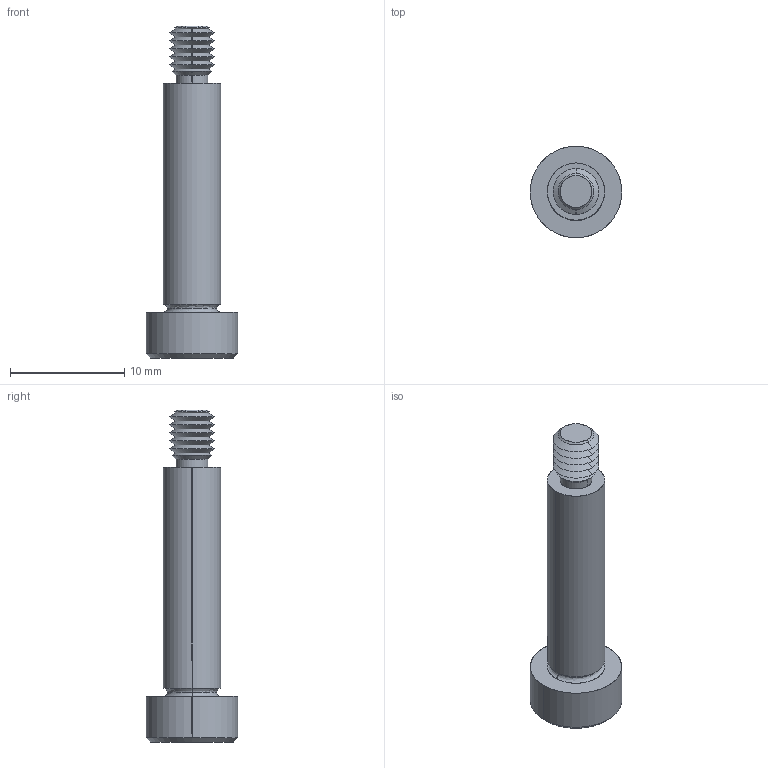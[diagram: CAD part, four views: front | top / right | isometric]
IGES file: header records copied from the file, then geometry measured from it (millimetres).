
Start section: SolidWorks IGES file using analytic representation for surfaces
Global section: file name: C:\Users\IanO\Documents\Temp Folder\GENERAL\SCREW REVISION\P0130_v2\P0130.T5_v2_20220106_IGES\P0130.050-020-T5.igs; native system: SolidWorks 2019; preprocessor: SolidWorks 2019; author: IanO; date: 220106.221645; units: millimetre
Bounding box: 8 x 8 x 29 mm (x, y, z)
Surface area: 630.1 mm2 (no closed solid volume)
Topology: 0 solids, 0 shells, 64 faces, 504 edges, 502 vertices
Faces by surface type: revolution 44, bspline 20
